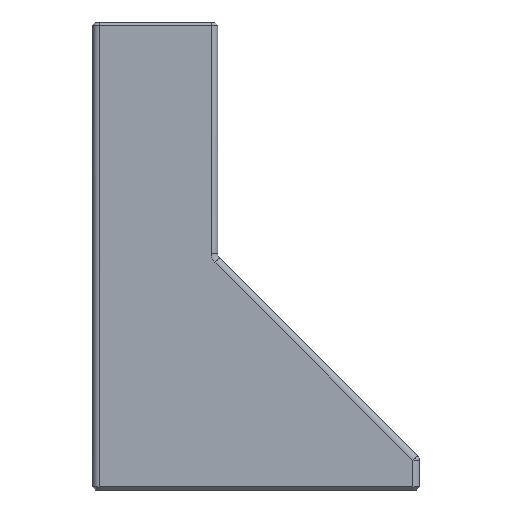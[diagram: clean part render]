
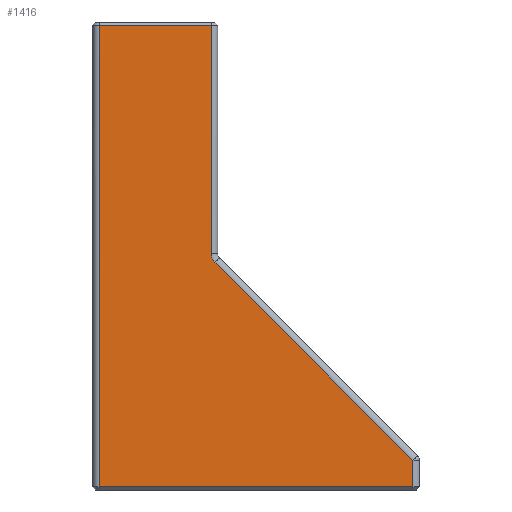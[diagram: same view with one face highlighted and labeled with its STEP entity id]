
A CAD part, left-side view. The second image highlights one B-rep face of the part: STEP entity #1416.
In plain terms, the highlighted planar face has unit normal (-1, 0, 0).
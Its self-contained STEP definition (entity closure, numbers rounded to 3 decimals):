
#95=CIRCLE('',#1530,1.6);
#132=FACE_OUTER_BOUND('',#223,.T.);
#223=EDGE_LOOP('',(#1014,#1015,#1016,#1017,#1018,#1019,#1020));
#353=LINE('',#2163,#501);
#355=LINE('',#2169,#503);
#356=LINE('',#2173,#504);
#357=LINE('',#2175,#505);
#358=LINE('',#2177,#506);
#359=LINE('',#2178,#507);
#501=VECTOR('',#1720,10.);
#503=VECTOR('',#1726,10.);
#504=VECTOR('',#1729,10.);
#505=VECTOR('',#1730,10.);
#506=VECTOR('',#1731,10.);
#507=VECTOR('',#1732,10.);
#648=VERTEX_POINT('',#2155);
#651=VERTEX_POINT('',#2162);
#653=VERTEX_POINT('',#2168);
#654=VERTEX_POINT('',#2170);
#655=VERTEX_POINT('',#2172);
#656=VERTEX_POINT('',#2174);
#657=VERTEX_POINT('',#2176);
#784=EDGE_CURVE('',#648,#651,#353,.T.);
#787=EDGE_CURVE('',#653,#648,#355,.T.);
#788=EDGE_CURVE('',#654,#653,#95,.T.);
#789=EDGE_CURVE('',#655,#654,#356,.T.);
#790=EDGE_CURVE('',#656,#655,#357,.T.);
#791=EDGE_CURVE('',#657,#656,#358,.T.);
#792=EDGE_CURVE('',#651,#657,#359,.T.);
#1014=ORIENTED_EDGE('',*,*,#787,.F.);
#1015=ORIENTED_EDGE('',*,*,#788,.F.);
#1016=ORIENTED_EDGE('',*,*,#789,.F.);
#1017=ORIENTED_EDGE('',*,*,#790,.F.);
#1018=ORIENTED_EDGE('',*,*,#791,.F.);
#1019=ORIENTED_EDGE('',*,*,#792,.F.);
#1020=ORIENTED_EDGE('',*,*,#784,.F.);
#1361=PLANE('',#1529);
#1416=ADVANCED_FACE('',(#132),#1361,.T.);
#1529=AXIS2_PLACEMENT_3D('',#2167,#1724,#1725);
#1530=AXIS2_PLACEMENT_3D('',#2171,#1727,#1728);
#1720=DIRECTION('',(0.,0.,-1.));
#1724=DIRECTION('center_axis',(-1.,0.,0.));
#1725=DIRECTION('ref_axis',(0.,1.,0.));
#1726=DIRECTION('',(0.,-0.707,-0.707));
#1727=DIRECTION('center_axis',(-1.,0.,0.));
#1728=DIRECTION('ref_axis',(0.,0.924,-0.383));
#1729=DIRECTION('',(0.,0.,-1.));
#1730=DIRECTION('',(0.,-1.,0.));
#1731=DIRECTION('',(0.,0.,1.));
#1732=DIRECTION('',(0.,1.,0.));
#2155=CARTESIAN_POINT('',(-20.65,-34.2,-46.331));
#2162=CARTESIAN_POINT('',(-20.65,-34.2,-49.6));
#2163=CARTESIAN_POINT('',(-20.65,-34.2,-25.));
#2167=CARTESIAN_POINT('Origin',(-20.65,-10.,0.));
#2168=CARTESIAN_POINT('',(-20.65,-9.669,-21.8));
#2169=CARTESIAN_POINT('',(-20.65,-10.434,-22.566));
#2170=CARTESIAN_POINT('',(-20.65,-9.2,-20.669));
#2171=CARTESIAN_POINT('Origin',(-20.65,-10.8,-20.669));
#2172=CARTESIAN_POINT('',(-20.65,-9.2,7.6));
#2173=CARTESIAN_POINT('',(-20.65,-9.2,0.));
#2174=CARTESIAN_POINT('',(-20.65,4.7,7.6));
#2175=CARTESIAN_POINT('',(-20.65,-6.125,7.6));
#2176=CARTESIAN_POINT('',(-20.65,4.7,-49.6));
#2177=CARTESIAN_POINT('',(-20.65,4.7,0.));
#2178=CARTESIAN_POINT('',(-20.65,-6.125,-49.6));
